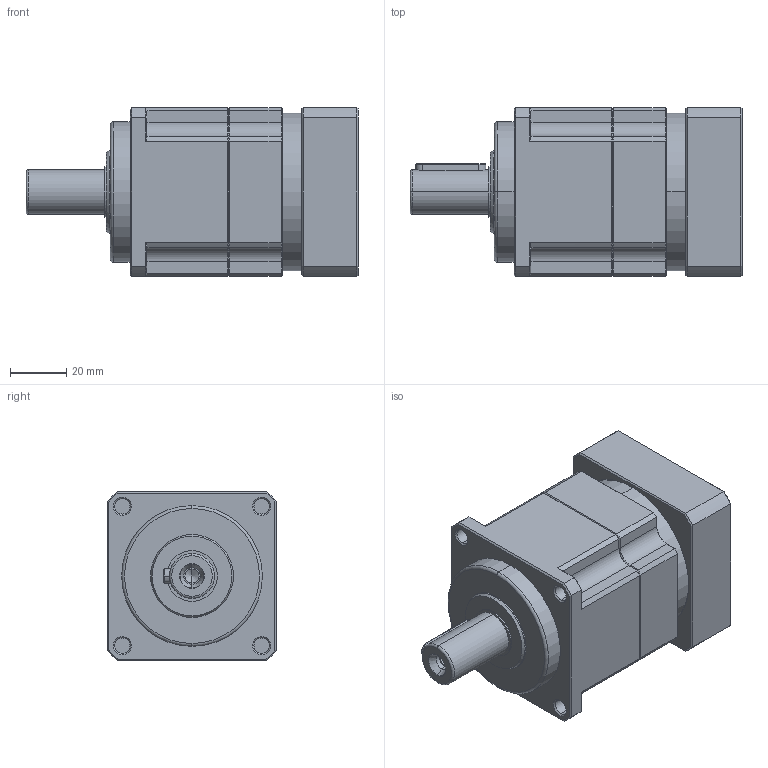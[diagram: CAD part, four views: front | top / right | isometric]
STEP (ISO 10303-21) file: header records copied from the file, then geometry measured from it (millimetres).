
FILE_DESCRIPTION (( 'STEP AP203' ), '1' );
FILE_NAME ('TB060-L1-8-38.1-66.7-M4-34-5（分体）.STEP', '2020-11-06T06:00:33', ( '' ), ( '' ), 'SwSTEP 2.0', 'SolidWorks 2017', '' );
FILE_SCHEMA (( 'CONFIG_CONTROL_DESIGN' ));
Length unit declared in the file: millimetre
Products named in the file (1): TB060-L1-8-38.1-66.7-M4-34-5（分体）
Bounding box: 118 x 60 x 60 mm (x, y, z)
Volume: 265326.8 mm3; surface area: 43800.3 mm2
Topology: 5 solids, 5 shells, 335 faces, 746 edges, 429 vertices
Faces by surface type: plane 122, cone 102, cylinder 101, torus 10
Entity records: 9451 total; most frequent: CARTESIAN_POINT 2012, DIRECTION 1602, ORIENTED_EDGE 1472, EDGE_CURVE 736, AXIS2_PLACEMENT_3D 627, VERTEX_POINT 429, EDGE_LOOP 369, LINE 348
